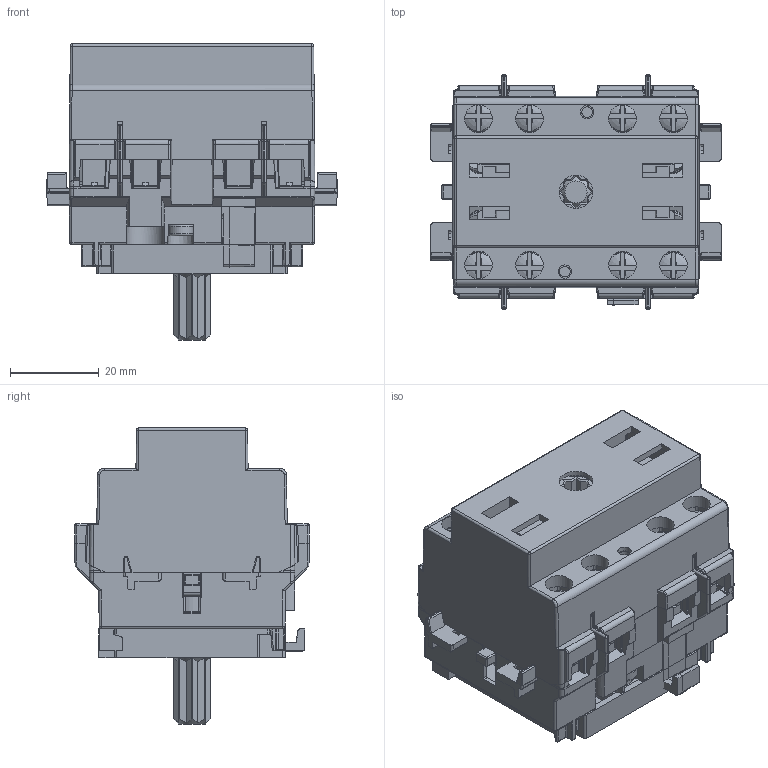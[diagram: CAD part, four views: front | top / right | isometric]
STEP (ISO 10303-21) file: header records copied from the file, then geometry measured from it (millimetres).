
FILE_DESCRIPTION(/* description */ (''),/* implementation_level */ '2;1');
FILE_NAME(/* name */ '4003004.stp',/* time_stamp */ '2019-10-31T08:52:49+01:00',/* author */ (''),/* organization */ (''),/* preprocessor_version */ 'ST-DEVELOPER v16.7',/* originating_system */ 'SIEMENS PLM Software NX 1888',/* authorisation */ '');
FILE_SCHEMA (('AUTOMOTIVE_DESIGN { 1 0 10303 214 3 1 1 1 }'));
Products named in the file (1): BSOM1408C3F78hy4
Bounding box: 65.5 x 52.98 x 66.86 mm (x, y, z)
Volume: 56746.1 mm3; surface area: 71596.3 mm2
Topology: 39 solids, 39 shells, 4511 faces, 12325 edges, 7874 vertices
Faces by surface type: plane 2721, cylinder 1336, torus 130, bspline 107, sphere 84, cone 74, extrusion 59
Full cylindrical faces by diameter (mm): 2.25 x2, 2.393 x5, 2.5 x13, 2.9 x8, 2.991 x5, 3.1 x2, 3.19 x2, 3.2 x4, 3.3 x2, 3.5 x8, 4 x12, 4.4 x8, 5.7 x2, 6 x2, 6.221 x4, 6.231 x4, 7 x1, 7.2 x8, 7.577 x2, 8.3 x1, 9 x1, 10 x1, 10.2 x2, 12 x1, 12.5 x1, 15.5 x1, 22 x1
Entity records: 144431 total; most frequent: CARTESIAN_POINT 30836, ORIENTED_EDGE 23944, DIRECTION 22933, EDGE_CURVE 11972, VECTOR 8285, LINE 8226, VERTEX_POINT 7795, AXIS2_PLACEMENT_3D 7324
